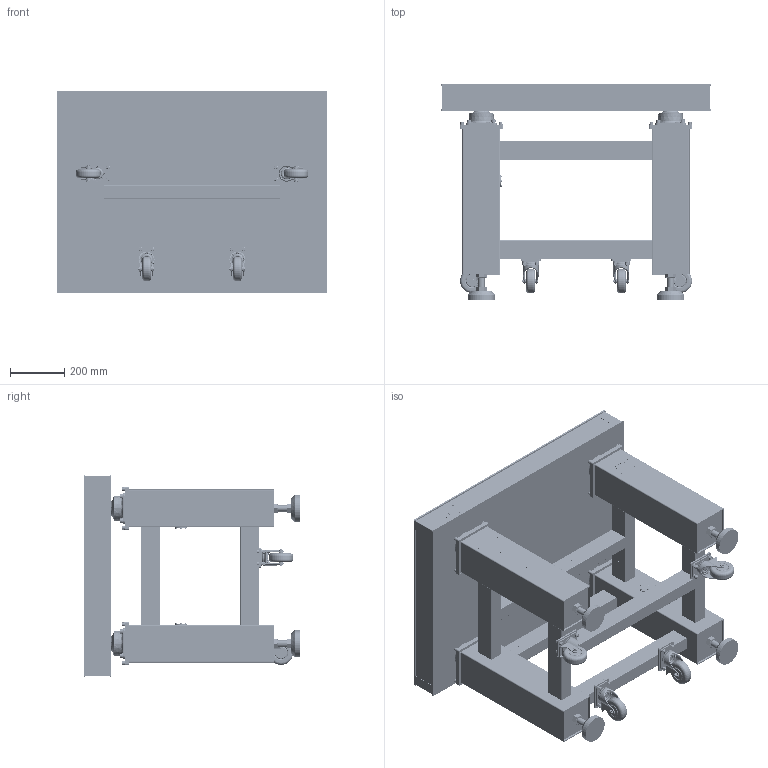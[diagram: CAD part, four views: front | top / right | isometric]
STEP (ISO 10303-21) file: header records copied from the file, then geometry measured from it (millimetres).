
FILE_DESCRIPTION (( 'STEP AP203' ), '1' );
FILE_NAME ('GDUT-1007 ¹âÑ§Æ½Ì¨.STEP', '2018-02-06T02:31:52', ( 'pc' ), ( '' ), 'SwSTEP 2.0', 'SolidWorks 2016', '' );
FILE_SCHEMA (( 'CONFIG_CONTROL_DESIGN' ));
Length unit declared in the file: millimetre
Products named in the file (1): GDUT-1007 嫖悝す怢
Bounding box: 1000 x 800 x 750 mm (x, y, z)
Volume: 22875862.9 mm3; surface area: 9406137.1 mm2
Topology: 249 solids, 257 shells, 9865 faces, 25660 edges, 16622 vertices
Faces by surface type: plane 3900, cylinder 3528, bspline 1441, cone 560, torus 420, sphere 16
Entity records: 334857 total; most frequent: CARTESIAN_POINT 90829, ORIENTED_EDGE 50960, DIRECTION 48780, EDGE_CURVE 25480, AXIS2_PLACEMENT_3D 18049, VERTEX_POINT 16598, EDGE_LOOP 13028, LINE 12682
